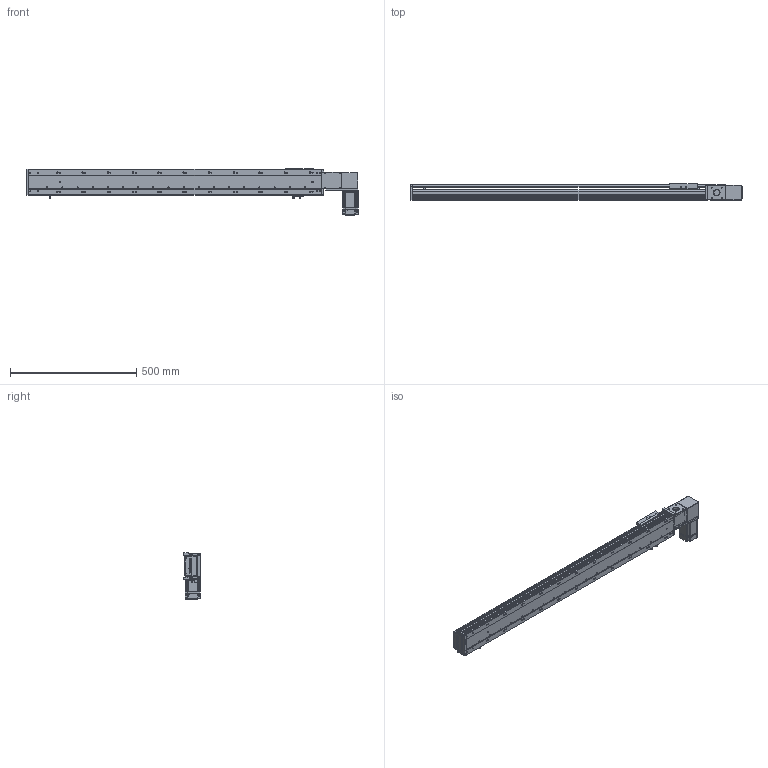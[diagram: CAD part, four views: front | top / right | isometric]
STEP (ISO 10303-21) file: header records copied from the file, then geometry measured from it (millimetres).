
FILE_DESCRIPTION (( 'STEP AP203' ), '1' );
FILE_NAME ('RY100-T-300-LK.SLDASM_950.step', '2024-04-25T05:37:27', ( '盈信电脑' ), ( '东莞市道滘镇水果街19号' ), 'SwSTEP 2.0', 'SolidWorks 2016', '' );
FILE_SCHEMA (( 'CONFIG_CONTROL_DESIGN' ));
Length unit declared in the file: millimetre
Products named in the file (13): RY100-T-300-RK倰第奻裔_950; 滅袉蝶18-10; RY100-T-300-LK.SLDASM_950; 覜茼ん672; RY100-T肮祭謫臏賑輸; RY100-T肮祭謫翋盓傅釱; 1; RY100綴裔啣; RY80-T肮祭謫俋欶; RY100俋离覜茼え; RY100-T翋肮祭謫裔啣2; RY100-T-300-RK倰第菁釱_950; RY100-T左右折电机安装板
Assembly tree (16 placements, depth 2):
  RY100-T-300-LK.SLDASM_950
    RY100-T-300-RK倰第菁釱_950
    RY100-T-300-RK倰第奻裔_950
    RY100-T肮祭謫臏賑輸
    RY100綴裔啣
    覜茼ん672  x3
    RY100俋离覜茼え
    RY100-T肮祭謫翋盓傅釱
    滅袉蝶18-10  x2
    RY100-T翋肮祭謫裔啣2  x2
    RY80-T肮祭謫俋欶
    RY100-T左右折电机安装板
    1
Bounding box: 1314 x 66 x 182.5 mm (x, y, z)
Volume: 2527553.4 mm3; surface area: 1039099.4 mm2
Topology: 16 solids, 16 shells, 2236 faces, 6275 edges, 4081 vertices
Faces by surface type: plane 1190, cylinder 829, cone 139, bspline 78
Entity records: 72251 total; most frequent: CARTESIAN_POINT 17927, ORIENTED_EDGE 11286, DIRECTION 10651, EDGE_CURVE 5643, VERTEX_POINT 3717, LINE 3591, VECTOR 3591, AXIS2_PLACEMENT_3D 3530
